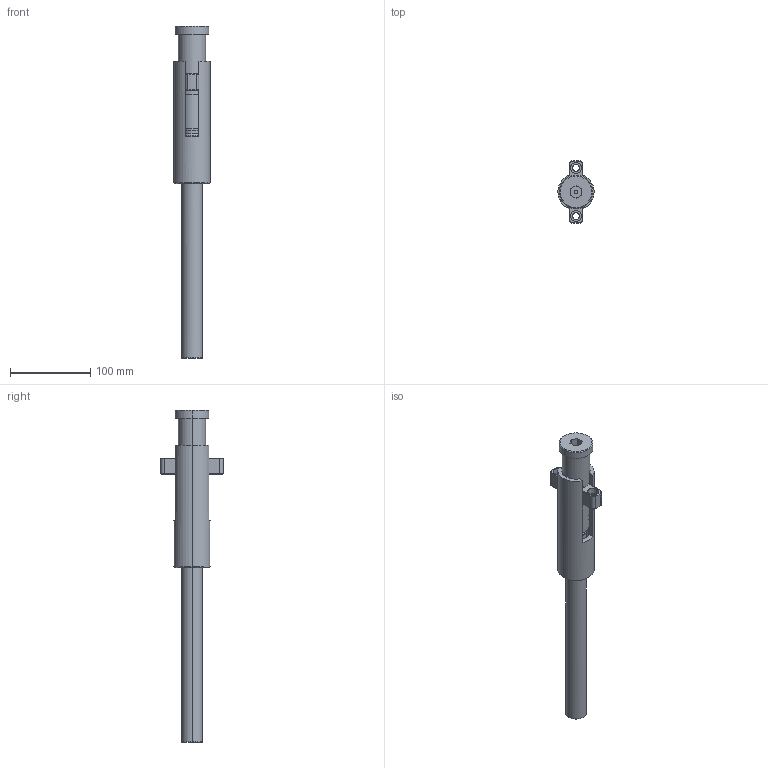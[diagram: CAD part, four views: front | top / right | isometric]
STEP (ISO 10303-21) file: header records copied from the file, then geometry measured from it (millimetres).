
FILE_DESCRIPTION (( 'STEP AP203' ), '1' );
FILE_NAME ('DKL4512.STEP', '2013-08-26T11:24:15', ( '' ), ( '' ), 'SwSTEP 2.0', 'SolidWorks 2013', '' );
FILE_SCHEMA (( 'CONFIG_CONTROL_DESIGN' ));
Length unit declared in the file: millimetre
Products named in the file (9): DKL4062; DKL4051; DKL4021; DKL4041; DKL4082; DKL4071; DKL4011; DKL4512; DKL4031
Assembly tree (11 placements, depth 2):
  DKL4512
    DKL4031
    DKL4062  x4
    DKL4051
    DKL4021
    DKL4041
    DKL4082
    DKL4071
    DKL4011
Bounding box: 45 x 77.93 x 413 mm (x, y, z)
Volume: 354460.9 mm3; surface area: 99909.1 mm2
Topology: 11 solids, 11 shells, 469 faces, 1103 edges, 666 vertices
Faces by surface type: plane 156, cylinder 140, cone 117, torus 54, bspline 2
Entity records: 15836 total; most frequent: CARTESIAN_POINT 5640, DIRECTION 2083, ORIENTED_EDGE 1822, EDGE_CURVE 911, AXIS2_PLACEMENT_3D 842, VERTEX_POINT 555, CIRCLE 439, EDGE_LOOP 434
